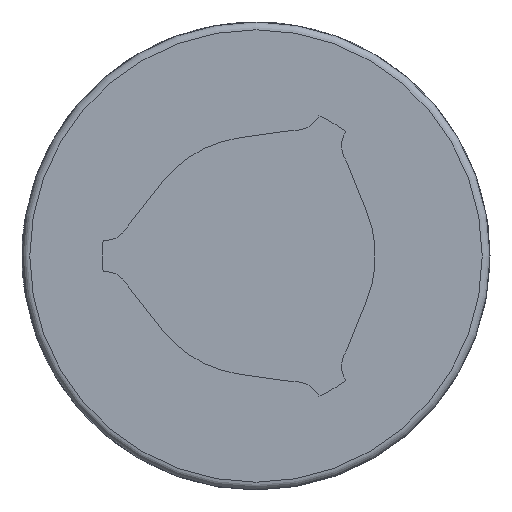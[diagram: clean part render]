
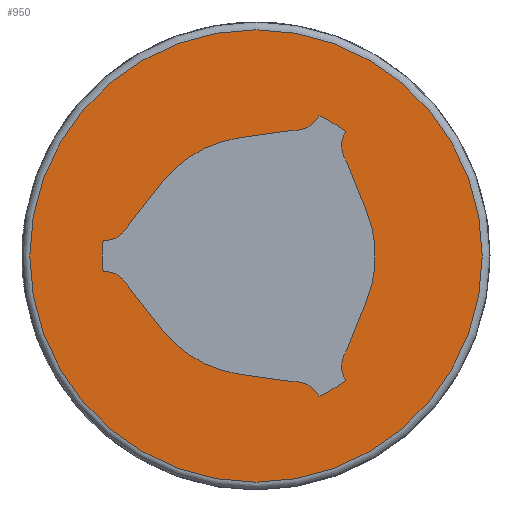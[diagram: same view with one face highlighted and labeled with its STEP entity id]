
A CAD part, left-side view. The second image highlights one B-rep face of the part: STEP entity #950.
In plain terms, the highlighted planar face has unit normal (-1, 0, 0).
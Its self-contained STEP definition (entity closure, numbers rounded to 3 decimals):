
#48=PLANE('',#1057);
#92=LINE('',#1550,#162);
#93=LINE('',#1559,#163);
#94=LINE('',#1563,#164);
#95=LINE('',#1571,#165);
#96=LINE('',#1575,#166);
#97=LINE('',#1583,#167);
#162=VECTOR('',#1255,1000.);
#163=VECTOR('',#1262,1000.);
#164=VECTOR('',#1265,1000.);
#165=VECTOR('',#1272,1000.);
#166=VECTOR('',#1275,1000.);
#167=VECTOR('',#1282,1000.);
#310=ORIENTED_EDGE('',*,*,#528,.F.);
#311=ORIENTED_EDGE('',*,*,#529,.T.);
#312=ORIENTED_EDGE('',*,*,#530,.F.);
#313=ORIENTED_EDGE('',*,*,#531,.T.);
#314=ORIENTED_EDGE('',*,*,#532,.F.);
#315=ORIENTED_EDGE('',*,*,#533,.T.);
#316=ORIENTED_EDGE('',*,*,#534,.T.);
#317=ORIENTED_EDGE('',*,*,#535,.T.);
#318=ORIENTED_EDGE('',*,*,#536,.F.);
#319=ORIENTED_EDGE('',*,*,#537,.T.);
#320=ORIENTED_EDGE('',*,*,#538,.F.);
#321=ORIENTED_EDGE('',*,*,#539,.T.);
#322=ORIENTED_EDGE('',*,*,#540,.T.);
#323=ORIENTED_EDGE('',*,*,#541,.T.);
#324=ORIENTED_EDGE('',*,*,#542,.F.);
#325=ORIENTED_EDGE('',*,*,#543,.T.);
#326=ORIENTED_EDGE('',*,*,#544,.F.);
#327=ORIENTED_EDGE('',*,*,#545,.T.);
#328=ORIENTED_EDGE('',*,*,#546,.T.);
#528=EDGE_CURVE('',#646,#646,#728,.T.);
#529=EDGE_CURVE('',#647,#648,#92,.T.);
#530=EDGE_CURVE('',#649,#648,#729,.T.);
#531=EDGE_CURVE('',#649,#650,#730,.T.);
#532=EDGE_CURVE('',#651,#650,#731,.T.);
#533=EDGE_CURVE('',#651,#652,#93,.T.);
#534=EDGE_CURVE('',#652,#653,#732,.T.);
#535=EDGE_CURVE('',#653,#654,#94,.T.);
#536=EDGE_CURVE('',#655,#654,#733,.T.);
#537=EDGE_CURVE('',#655,#656,#734,.T.);
#538=EDGE_CURVE('',#657,#656,#735,.T.);
#539=EDGE_CURVE('',#657,#658,#95,.T.);
#540=EDGE_CURVE('',#658,#659,#736,.T.);
#541=EDGE_CURVE('',#659,#660,#96,.T.);
#542=EDGE_CURVE('',#661,#660,#737,.T.);
#543=EDGE_CURVE('',#661,#662,#738,.T.);
#544=EDGE_CURVE('',#663,#662,#739,.T.);
#545=EDGE_CURVE('',#663,#664,#97,.T.);
#546=EDGE_CURVE('',#664,#647,#740,.T.);
#646=VERTEX_POINT('',#1549);
#647=VERTEX_POINT('',#1551);
#648=VERTEX_POINT('',#1552);
#649=VERTEX_POINT('',#1554);
#650=VERTEX_POINT('',#1556);
#651=VERTEX_POINT('',#1558);
#652=VERTEX_POINT('',#1560);
#653=VERTEX_POINT('',#1562);
#654=VERTEX_POINT('',#1564);
#655=VERTEX_POINT('',#1566);
#656=VERTEX_POINT('',#1568);
#657=VERTEX_POINT('',#1570);
#658=VERTEX_POINT('',#1572);
#659=VERTEX_POINT('',#1574);
#660=VERTEX_POINT('',#1576);
#661=VERTEX_POINT('',#1578);
#662=VERTEX_POINT('',#1580);
#663=VERTEX_POINT('',#1582);
#664=VERTEX_POINT('',#1584);
#728=CIRCLE('',#1058,14.5);
#729=CIRCLE('',#1059,1.65);
#730=CIRCLE('',#1060,9.85);
#731=CIRCLE('',#1061,1.65);
#732=CIRCLE('',#1062,7.65);
#733=CIRCLE('',#1063,1.65);
#734=CIRCLE('',#1064,9.85);
#735=CIRCLE('',#1065,1.65);
#736=CIRCLE('',#1066,7.65);
#737=CIRCLE('',#1067,1.65);
#738=CIRCLE('',#1068,9.85);
#739=CIRCLE('',#1069,1.65);
#740=CIRCLE('',#1070,7.65);
#783=EDGE_LOOP('',(#310));
#784=EDGE_LOOP('',(#311,#312,#313,#314,#315,#316,#317,#318,#319,#320,#321,
#322,#323,#324,#325,#326,#327,#328));
#851=FACE_BOUND('',#783,.T.);
#852=FACE_BOUND('',#784,.T.);
#950=ADVANCED_FACE('',(#851,#852),#48,.F.);
#1057=AXIS2_PLACEMENT_3D('',#1547,#1251,#1252);
#1058=AXIS2_PLACEMENT_3D('',#1548,#1253,#1254);
#1059=AXIS2_PLACEMENT_3D('',#1553,#1256,#1257);
#1060=AXIS2_PLACEMENT_3D('',#1555,#1258,#1259);
#1061=AXIS2_PLACEMENT_3D('',#1557,#1260,#1261);
#1062=AXIS2_PLACEMENT_3D('',#1561,#1263,#1264);
#1063=AXIS2_PLACEMENT_3D('',#1565,#1266,#1267);
#1064=AXIS2_PLACEMENT_3D('',#1567,#1268,#1269);
#1065=AXIS2_PLACEMENT_3D('',#1569,#1270,#1271);
#1066=AXIS2_PLACEMENT_3D('',#1573,#1273,#1274);
#1067=AXIS2_PLACEMENT_3D('',#1577,#1276,#1277);
#1068=AXIS2_PLACEMENT_3D('',#1579,#1278,#1279);
#1069=AXIS2_PLACEMENT_3D('',#1581,#1280,#1281);
#1070=AXIS2_PLACEMENT_3D('',#1585,#1283,#1284);
#1251=DIRECTION('',(1.,0.,0.));
#1252=DIRECTION('',(0.,0.,-1.));
#1253=DIRECTION('',(1.,0.,0.));
#1254=DIRECTION('',(0.,0.,-1.));
#1255=DIRECTION('',(0.,-0.99,0.139));
#1256=DIRECTION('',(1.,0.,0.));
#1257=DIRECTION('',(0.,0.,-1.));
#1258=DIRECTION('',(1.,0.,0.));
#1259=DIRECTION('',(0.,0.,-1.));
#1260=DIRECTION('',(1.,0.,0.));
#1261=DIRECTION('',(0.,0.,-1.));
#1262=DIRECTION('',(0.,-0.375,-0.927));
#1263=DIRECTION('',(1.,0.,0.));
#1264=DIRECTION('',(0.,0.,-1.));
#1265=DIRECTION('',(0.,0.375,-0.927));
#1266=DIRECTION('',(1.,0.,0.));
#1267=DIRECTION('',(0.,0.,-1.));
#1268=DIRECTION('',(1.,0.,0.));
#1269=DIRECTION('',(0.,0.,-1.));
#1270=DIRECTION('',(1.,0.,0.));
#1271=DIRECTION('',(0.,0.,-1.));
#1272=DIRECTION('',(0.,0.99,0.139));
#1273=DIRECTION('',(1.,0.,0.));
#1274=DIRECTION('',(0.,0.,-1.));
#1275=DIRECTION('',(0.,0.616,0.788));
#1276=DIRECTION('',(1.,0.,0.));
#1277=DIRECTION('',(0.,0.,-1.));
#1278=DIRECTION('',(1.,0.,0.));
#1279=DIRECTION('',(0.,0.,-1.));
#1280=DIRECTION('',(1.,0.,0.));
#1281=DIRECTION('',(0.,0.,-1.));
#1282=DIRECTION('',(0.,-0.616,0.788));
#1283=DIRECTION('',(1.,0.,0.));
#1284=DIRECTION('',(0.,0.,-1.));
#1547=CARTESIAN_POINT('',(0.,0.,0.));
#1548=CARTESIAN_POINT('',(0.,0.,0.));
#1549=CARTESIAN_POINT('',(0.,0.,-14.5));
#1550=CARTESIAN_POINT('',(0.,1.065,7.576));
#1551=CARTESIAN_POINT('',(0.,1.065,7.576));
#1552=CARTESIAN_POINT('',(0.,-2.435,8.067));
#1553=CARTESIAN_POINT('',(0.,-2.557,9.713));
#1554=CARTESIAN_POINT('',(0.,-4.038,8.984));
#1555=CARTESIAN_POINT('',(0.,0.,0.));
#1556=CARTESIAN_POINT('',(0.,-5.762,7.989));
#1557=CARTESIAN_POINT('',(0.,-7.133,7.071));
#1558=CARTESIAN_POINT('',(0.,-5.769,6.142));
#1559=CARTESIAN_POINT('',(0.,-5.769,6.142));
#1560=CARTESIAN_POINT('',(0.,-7.093,2.866));
#1561=CARTESIAN_POINT('',(0.,0.,0.));
#1562=CARTESIAN_POINT('',(0.,-7.093,-2.866));
#1563=CARTESIAN_POINT('',(0.,-7.093,-2.866));
#1564=CARTESIAN_POINT('',(0.,-5.769,-6.142));
#1565=CARTESIAN_POINT('',(0.,-7.133,-7.071));
#1566=CARTESIAN_POINT('',(0.,-5.762,-7.989));
#1567=CARTESIAN_POINT('',(0.,0.,0.));
#1568=CARTESIAN_POINT('',(0.,-4.038,-8.984));
#1569=CARTESIAN_POINT('',(0.,-2.557,-9.713));
#1570=CARTESIAN_POINT('',(0.,-2.435,-8.067));
#1571=CARTESIAN_POINT('',(0.,-2.435,-8.067));
#1572=CARTESIAN_POINT('',(0.,1.065,-7.576));
#1573=CARTESIAN_POINT('',(0.,0.,0.));
#1574=CARTESIAN_POINT('',(0.,6.028,-4.71));
#1575=CARTESIAN_POINT('',(0.,6.028,-4.71));
#1576=CARTESIAN_POINT('',(0.,8.204,-1.925));
#1577=CARTESIAN_POINT('',(0.,9.69,-2.642));
#1578=CARTESIAN_POINT('',(0.,9.8,-0.995));
#1579=CARTESIAN_POINT('',(0.,0.,0.));
#1580=CARTESIAN_POINT('',(0.,9.8,0.995));
#1581=CARTESIAN_POINT('',(0.,9.69,2.642));
#1582=CARTESIAN_POINT('',(0.,8.204,1.925));
#1583=CARTESIAN_POINT('',(0.,8.204,1.925));
#1584=CARTESIAN_POINT('',(0.,6.028,4.71));
#1585=CARTESIAN_POINT('',(0.,0.,0.));
